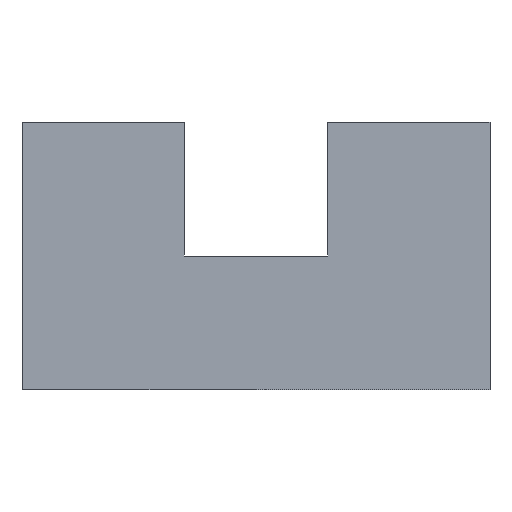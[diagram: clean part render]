
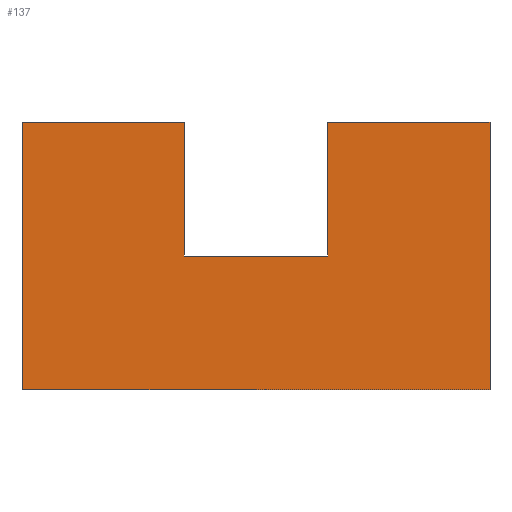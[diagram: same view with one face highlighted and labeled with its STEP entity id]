
A CAD part, front view. The second image highlights one B-rep face of the part: STEP entity #137.
In plain terms, the highlighted planar face has unit normal (0, -1, 0).
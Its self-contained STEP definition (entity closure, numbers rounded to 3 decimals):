
#21 = EDGE_CURVE('',#22,#24,#26,.T.);
#22 = VERTEX_POINT('',#23);
#23 = CARTESIAN_POINT('',(138.,74.,-169.));
#24 = VERTEX_POINT('',#25);
#25 = CARTESIAN_POINT('',(138.,74.,-161.));
#26 = SURFACE_CURVE('',#27,(#31,#43),.PCURVE_S1.);
#27 = LINE('',#28,#29);
#28 = CARTESIAN_POINT('',(138.,74.,-169.));
#29 = VECTOR('',#30,1.);
#30 = DIRECTION('',(0.,0.,1.));
#31 = PCURVE('',#32,#37);
#32 = PLANE('',#33);
#33 = AXIS2_PLACEMENT_3D('',#34,#35,#36);
#34 = CARTESIAN_POINT('',(138.,74.,-169.));
#35 = DIRECTION('',(1.,0.,0.));
#36 = DIRECTION('',(0.,0.,1.));
#37 = DEFINITIONAL_REPRESENTATION('',(#38),#42);
#38 = LINE('',#39,#40);
#39 = CARTESIAN_POINT('',(0.,0.));
#40 = VECTOR('',#41,1.);
#41 = DIRECTION('',(1.,0.));
#42 = ( GEOMETRIC_REPRESENTATION_CONTEXT(2) 
PARAMETRIC_REPRESENTATION_CONTEXT() REPRESENTATION_CONTEXT('2D SPACE',''
  ) );
#43 = PCURVE('',#44,#49);
#44 = PLANE('',#45);
#45 = AXIS2_PLACEMENT_3D('',#46,#47,#48);
#46 = CARTESIAN_POINT('',(138.,74.,-169.));
#47 = DIRECTION('',(0.,1.,0.));
#48 = DIRECTION('',(0.,0.,1.));
#49 = DEFINITIONAL_REPRESENTATION('',(#50),#54);
#50 = LINE('',#51,#52);
#51 = CARTESIAN_POINT('',(0.,0.));
#52 = VECTOR('',#53,1.);
#53 = DIRECTION('',(1.,0.));
#54 = ( GEOMETRIC_REPRESENTATION_CONTEXT(2) 
PARAMETRIC_REPRESENTATION_CONTEXT() REPRESENTATION_CONTEXT('2D SPACE',''
  ) );
#72 = PLANE('',#73);
#73 = AXIS2_PLACEMENT_3D('',#74,#75,#76);
#74 = CARTESIAN_POINT('',(138.,74.,-169.));
#75 = DIRECTION('',(0.,0.,1.));
#76 = DIRECTION('',(1.,0.,0.));
#126 = PLANE('',#127);
#127 = AXIS2_PLACEMENT_3D('',#128,#129,#130);
#128 = CARTESIAN_POINT('',(138.,74.,-161.));
#129 = DIRECTION('',(0.,0.,1.));
#130 = DIRECTION('',(1.,0.,0.));
#137 = ADVANCED_FACE('',(#138),#44,.F.);
#138 = FACE_BOUND('',#139,.F.);
#139 = EDGE_LOOP('',(#140,#170,#191,#192,#215,#241,#267,#293));
#140 = ORIENTED_EDGE('',*,*,#141,.F.);
#141 = EDGE_CURVE('',#142,#144,#146,.T.);
#142 = VERTEX_POINT('',#143);
#143 = CARTESIAN_POINT('',(152.,74.,-169.));
#144 = VERTEX_POINT('',#145);
#145 = CARTESIAN_POINT('',(152.,74.,-161.));
#146 = SURFACE_CURVE('',#147,(#151,#158),.PCURVE_S1.);
#147 = LINE('',#148,#149);
#148 = CARTESIAN_POINT('',(152.,74.,-169.));
#149 = VECTOR('',#150,1.);
#150 = DIRECTION('',(0.,0.,1.));
#151 = PCURVE('',#44,#152);
#152 = DEFINITIONAL_REPRESENTATION('',(#153),#157);
#153 = LINE('',#154,#155);
#154 = CARTESIAN_POINT('',(0.,14.));
#155 = VECTOR('',#156,1.);
#156 = DIRECTION('',(1.,0.));
#157 = ( GEOMETRIC_REPRESENTATION_CONTEXT(2) 
PARAMETRIC_REPRESENTATION_CONTEXT() REPRESENTATION_CONTEXT('2D SPACE',''
  ) );
#158 = PCURVE('',#159,#164);
#159 = PLANE('',#160);
#160 = AXIS2_PLACEMENT_3D('',#161,#162,#163);
#161 = CARTESIAN_POINT('',(152.,74.,-169.));
#162 = DIRECTION('',(1.,0.,0.));
#163 = DIRECTION('',(0.,0.,1.));
#164 = DEFINITIONAL_REPRESENTATION('',(#165),#169);
#165 = LINE('',#166,#167);
#166 = CARTESIAN_POINT('',(0.,0.));
#167 = VECTOR('',#168,1.);
#168 = DIRECTION('',(1.,0.));
#169 = ( GEOMETRIC_REPRESENTATION_CONTEXT(2) 
PARAMETRIC_REPRESENTATION_CONTEXT() REPRESENTATION_CONTEXT('2D SPACE',''
  ) );
#170 = ORIENTED_EDGE('',*,*,#171,.F.);
#171 = EDGE_CURVE('',#22,#142,#172,.T.);
#172 = SURFACE_CURVE('',#173,(#177,#184),.PCURVE_S1.);
#173 = LINE('',#174,#175);
#174 = CARTESIAN_POINT('',(138.,74.,-169.));
#175 = VECTOR('',#176,1.);
#176 = DIRECTION('',(1.,0.,0.));
#177 = PCURVE('',#44,#178);
#178 = DEFINITIONAL_REPRESENTATION('',(#179),#183);
#179 = LINE('',#180,#181);
#180 = CARTESIAN_POINT('',(0.,0.));
#181 = VECTOR('',#182,1.);
#182 = DIRECTION('',(0.,1.));
#183 = ( GEOMETRIC_REPRESENTATION_CONTEXT(2) 
PARAMETRIC_REPRESENTATION_CONTEXT() REPRESENTATION_CONTEXT('2D SPACE',''
  ) );
#184 = PCURVE('',#72,#185);
#185 = DEFINITIONAL_REPRESENTATION('',(#186),#190);
#186 = LINE('',#187,#188);
#187 = CARTESIAN_POINT('',(0.,0.));
#188 = VECTOR('',#189,1.);
#189 = DIRECTION('',(1.,0.));
#190 = ( GEOMETRIC_REPRESENTATION_CONTEXT(2) 
PARAMETRIC_REPRESENTATION_CONTEXT() REPRESENTATION_CONTEXT('2D SPACE',''
  ) );
#191 = ORIENTED_EDGE('',*,*,#21,.T.);
#192 = ORIENTED_EDGE('',*,*,#193,.T.);
#193 = EDGE_CURVE('',#24,#194,#196,.T.);
#194 = VERTEX_POINT('',#195);
#195 = CARTESIAN_POINT('',(142.85,74.,-161.));
#196 = SURFACE_CURVE('',#197,(#201,#208),.PCURVE_S1.);
#197 = LINE('',#198,#199);
#198 = CARTESIAN_POINT('',(138.,74.,-161.));
#199 = VECTOR('',#200,1.);
#200 = DIRECTION('',(1.,0.,0.));
#201 = PCURVE('',#44,#202);
#202 = DEFINITIONAL_REPRESENTATION('',(#203),#207);
#203 = LINE('',#204,#205);
#204 = CARTESIAN_POINT('',(8.,0.));
#205 = VECTOR('',#206,1.);
#206 = DIRECTION('',(0.,1.));
#207 = ( GEOMETRIC_REPRESENTATION_CONTEXT(2) 
PARAMETRIC_REPRESENTATION_CONTEXT() REPRESENTATION_CONTEXT('2D SPACE',''
  ) );
#208 = PCURVE('',#126,#209);
#209 = DEFINITIONAL_REPRESENTATION('',(#210),#214);
#210 = LINE('',#211,#212);
#211 = CARTESIAN_POINT('',(0.,0.));
#212 = VECTOR('',#213,1.);
#213 = DIRECTION('',(1.,0.));
#214 = ( GEOMETRIC_REPRESENTATION_CONTEXT(2) 
PARAMETRIC_REPRESENTATION_CONTEXT() REPRESENTATION_CONTEXT('2D SPACE',''
  ) );
#215 = ORIENTED_EDGE('',*,*,#216,.T.);
#216 = EDGE_CURVE('',#194,#217,#219,.T.);
#217 = VERTEX_POINT('',#218);
#218 = CARTESIAN_POINT('',(142.85,74.,-165.));
#219 = SURFACE_CURVE('',#220,(#224,#230),.PCURVE_S1.);
#220 = LINE('',#221,#222);
#221 = CARTESIAN_POINT('',(142.85,74.,-167.));
#222 = VECTOR('',#223,1.);
#223 = DIRECTION('',(0.,0.,-1.));
#224 = PCURVE('',#44,#225);
#225 = DEFINITIONAL_REPRESENTATION('',(#226),#229);
#226 = B_SPLINE_CURVE_WITH_KNOTS('',1,(#227,#228),.UNSPECIFIED.,.F.,.F.,
  (2,2),(-6.,-2.),.PIECEWISE_BEZIER_KNOTS.);
#227 = CARTESIAN_POINT('',(8.,4.85));
#228 = CARTESIAN_POINT('',(4.,4.85));
#229 = ( GEOMETRIC_REPRESENTATION_CONTEXT(2) 
PARAMETRIC_REPRESENTATION_CONTEXT() REPRESENTATION_CONTEXT('2D SPACE',''
  ) );
#230 = PCURVE('',#231,#236);
#231 = PLANE('',#232);
#232 = AXIS2_PLACEMENT_3D('',#233,#234,#235);
#233 = CARTESIAN_POINT('',(142.85,73.,-165.));
#234 = DIRECTION('',(1.,0.,0.));
#235 = DIRECTION('',(0.,0.,1.));
#236 = DEFINITIONAL_REPRESENTATION('',(#237),#240);
#237 = B_SPLINE_CURVE_WITH_KNOTS('',1,(#238,#239),.UNSPECIFIED.,.F.,.F.,
  (2,2),(-6.,-2.),.PIECEWISE_BEZIER_KNOTS.);
#238 = CARTESIAN_POINT('',(4.,-1.));
#239 = CARTESIAN_POINT('',(0.,-1.));
#240 = ( GEOMETRIC_REPRESENTATION_CONTEXT(2) 
PARAMETRIC_REPRESENTATION_CONTEXT() REPRESENTATION_CONTEXT('2D SPACE',''
  ) );
#241 = ORIENTED_EDGE('',*,*,#242,.T.);
#242 = EDGE_CURVE('',#217,#243,#245,.T.);
#243 = VERTEX_POINT('',#244);
#244 = CARTESIAN_POINT('',(147.15,74.,-165.));
#245 = SURFACE_CURVE('',#246,(#250,#256),.PCURVE_S1.);
#246 = LINE('',#247,#248);
#247 = CARTESIAN_POINT('',(140.425,74.,-165.));
#248 = VECTOR('',#249,1.);
#249 = DIRECTION('',(1.,0.,0.));
#250 = PCURVE('',#44,#251);
#251 = DEFINITIONAL_REPRESENTATION('',(#252),#255);
#252 = B_SPLINE_CURVE_WITH_KNOTS('',1,(#253,#254),.UNSPECIFIED.,.F.,.F.,
  (2,2),(2.425,6.725),.PIECEWISE_BEZIER_KNOTS.);
#253 = CARTESIAN_POINT('',(4.,4.85));
#254 = CARTESIAN_POINT('',(4.,9.15));
#255 = ( GEOMETRIC_REPRESENTATION_CONTEXT(2) 
PARAMETRIC_REPRESENTATION_CONTEXT() REPRESENTATION_CONTEXT('2D SPACE',''
  ) );
#256 = PCURVE('',#257,#262);
#257 = PLANE('',#258);
#258 = AXIS2_PLACEMENT_3D('',#259,#260,#261);
#259 = CARTESIAN_POINT('',(142.85,73.,-165.));
#260 = DIRECTION('',(0.,0.,1.));
#261 = DIRECTION('',(1.,0.,0.));
#262 = DEFINITIONAL_REPRESENTATION('',(#263),#266);
#263 = B_SPLINE_CURVE_WITH_KNOTS('',1,(#264,#265),.UNSPECIFIED.,.F.,.F.,
  (2,2),(2.425,6.725),.PIECEWISE_BEZIER_KNOTS.);
#264 = CARTESIAN_POINT('',(0.,1.));
#265 = CARTESIAN_POINT('',(4.3,1.));
#266 = ( GEOMETRIC_REPRESENTATION_CONTEXT(2) 
PARAMETRIC_REPRESENTATION_CONTEXT() REPRESENTATION_CONTEXT('2D SPACE',''
  ) );
#267 = ORIENTED_EDGE('',*,*,#268,.F.);
#268 = EDGE_CURVE('',#269,#243,#271,.T.);
#269 = VERTEX_POINT('',#270);
#270 = CARTESIAN_POINT('',(147.15,74.,-161.));
#271 = SURFACE_CURVE('',#272,(#276,#282),.PCURVE_S1.);
#272 = LINE('',#273,#274);
#273 = CARTESIAN_POINT('',(147.15,74.,-167.));
#274 = VECTOR('',#275,1.);
#275 = DIRECTION('',(0.,0.,-1.));
#276 = PCURVE('',#44,#277);
#277 = DEFINITIONAL_REPRESENTATION('',(#278),#281);
#278 = B_SPLINE_CURVE_WITH_KNOTS('',1,(#279,#280),.UNSPECIFIED.,.F.,.F.,
  (2,2),(-6.,-2.),.PIECEWISE_BEZIER_KNOTS.);
#279 = CARTESIAN_POINT('',(8.,9.15));
#280 = CARTESIAN_POINT('',(4.,9.15));
#281 = ( GEOMETRIC_REPRESENTATION_CONTEXT(2) 
PARAMETRIC_REPRESENTATION_CONTEXT() REPRESENTATION_CONTEXT('2D SPACE',''
  ) );
#282 = PCURVE('',#283,#288);
#283 = PLANE('',#284);
#284 = AXIS2_PLACEMENT_3D('',#285,#286,#287);
#285 = CARTESIAN_POINT('',(147.15,73.,-165.));
#286 = DIRECTION('',(1.,0.,0.));
#287 = DIRECTION('',(0.,0.,1.));
#288 = DEFINITIONAL_REPRESENTATION('',(#289),#292);
#289 = B_SPLINE_CURVE_WITH_KNOTS('',1,(#290,#291),.UNSPECIFIED.,.F.,.F.,
  (2,2),(-6.,-2.),.PIECEWISE_BEZIER_KNOTS.);
#290 = CARTESIAN_POINT('',(4.,-1.));
#291 = CARTESIAN_POINT('',(0.,-1.));
#292 = ( GEOMETRIC_REPRESENTATION_CONTEXT(2) 
PARAMETRIC_REPRESENTATION_CONTEXT() REPRESENTATION_CONTEXT('2D SPACE',''
  ) );
#293 = ORIENTED_EDGE('',*,*,#294,.T.);
#294 = EDGE_CURVE('',#269,#144,#295,.T.);
#295 = SURFACE_CURVE('',#296,(#300,#307),.PCURVE_S1.);
#296 = LINE('',#297,#298);
#297 = CARTESIAN_POINT('',(138.,74.,-161.));
#298 = VECTOR('',#299,1.);
#299 = DIRECTION('',(1.,0.,0.));
#300 = PCURVE('',#44,#301);
#301 = DEFINITIONAL_REPRESENTATION('',(#302),#306);
#302 = LINE('',#303,#304);
#303 = CARTESIAN_POINT('',(8.,0.));
#304 = VECTOR('',#305,1.);
#305 = DIRECTION('',(0.,1.));
#306 = ( GEOMETRIC_REPRESENTATION_CONTEXT(2) 
PARAMETRIC_REPRESENTATION_CONTEXT() REPRESENTATION_CONTEXT('2D SPACE',''
  ) );
#307 = PCURVE('',#308,#313);
#308 = PLANE('',#309);
#309 = AXIS2_PLACEMENT_3D('',#310,#311,#312);
#310 = CARTESIAN_POINT('',(138.,74.,-161.));
#311 = DIRECTION('',(0.,0.,1.));
#312 = DIRECTION('',(1.,0.,0.));
#313 = DEFINITIONAL_REPRESENTATION('',(#314),#318);
#314 = LINE('',#315,#316);
#315 = CARTESIAN_POINT('',(0.,0.));
#316 = VECTOR('',#317,1.);
#317 = DIRECTION('',(1.,0.));
#318 = ( GEOMETRIC_REPRESENTATION_CONTEXT(2) 
PARAMETRIC_REPRESENTATION_CONTEXT() REPRESENTATION_CONTEXT('2D SPACE',''
  ) );
